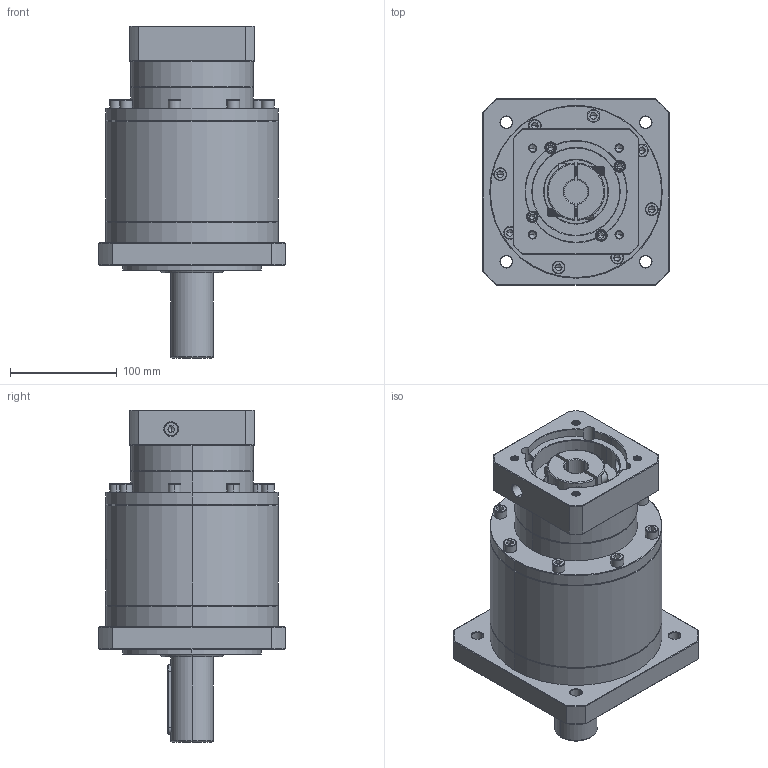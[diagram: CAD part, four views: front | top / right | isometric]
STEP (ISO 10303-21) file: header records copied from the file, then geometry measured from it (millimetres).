
FILE_DESCRIPTION (( 'STEP AP214' ), '1' );
FILE_NAME ('ZF160A-D40-L3-P2-22-95-115-M8.step', '2023-09-03T07:56:08', ( '' ), ( '' ), 'SwSTEP 2.0', 'SolidWorks 2016', '' );
FILE_SCHEMA (( 'AUTOMOTIVE_DESIGN' ));
Length unit declared in the file: millimetre
Products named in the file (1): ZF160A-D40-L3-P2-22-95-115-M8
Bounding box: 175 x 175 x 311.7 mm (x, y, z)
Volume: 4109554.9 mm3; surface area: 274529.9 mm2
Topology: 6 solids, 6 shells, 2441 faces, 6434 edges, 4116 vertices
Faces by surface type: plane 1119, cylinder 494, bspline 425, cone 365, torus 38
Entity records: 132122 total; most frequent: CARTESIAN_POINT 50283, ORIENTED_EDGE 12760, DIRECTION 9671, EDGE_CURVE 6380, VERTEX_POINT 4116, VECTOR 3383, LINE 3383, AXIS2_PLACEMENT_3D 3144
